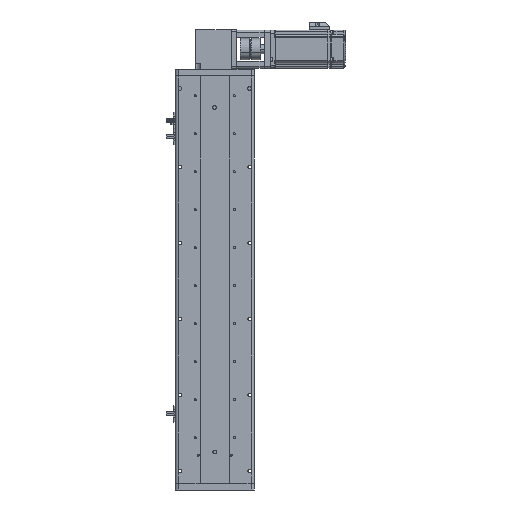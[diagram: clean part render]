
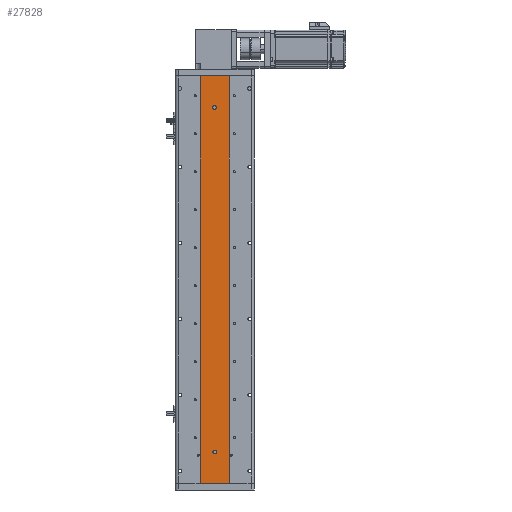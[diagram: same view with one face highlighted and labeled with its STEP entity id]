
A CAD part, front view. The second image highlights one B-rep face of the part: STEP entity #27828.
In plain terms, the highlighted planar face has unit normal (0, -1, 0).
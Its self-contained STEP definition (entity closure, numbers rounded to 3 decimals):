
#2139 = AXIS2_PLACEMENT_3D ( 'NONE', #26532, #40454, #12815 ) ;
#2588 = VERTEX_POINT ( 'NONE', #13676 ) ;
#2621 = ORIENTED_EDGE ( 'NONE', *, *, #57643, .F. ) ;
#4498 = CARTESIAN_POINT ( 'NONE',  ( 0., 1., 272. ) ) ;
#6329 = LINE ( 'NONE', #19925, #53901 ) ;
#6633 = LINE ( 'NONE', #44441, #29612 ) ;
#7964 = FACE_BOUND ( 'NONE', #14329, .T. ) ;
#7993 = ORIENTED_EDGE ( 'NONE', *, *, #21431, .T. ) ;
#8242 = VERTEX_POINT ( 'NONE', #35230 ) ;
#9047 = DIRECTION ( 'NONE',  ( 0., 0., -1. ) ) ;
#11163 = DIRECTION ( 'NONE',  ( 0., -1., 0. ) ) ;
#11499 = CARTESIAN_POINT ( 'NONE',  ( 0., 1., 275. ) ) ;
#12712 = CARTESIAN_POINT ( 'NONE',  ( 0., 1., -272. ) ) ;
#12815 = DIRECTION ( 'NONE',  ( 0., 0., 1. ) ) ;
#13676 = CARTESIAN_POINT ( 'NONE',  ( -23., 1., -322. ) ) ;
#13894 = EDGE_CURVE ( 'NONE', #8242, #50599, #52273, .T. ) ;
#14329 = EDGE_LOOP ( 'NONE', ( #2621, #29481 ) ) ;
#16794 = AXIS2_PLACEMENT_3D ( 'NONE', #4498, #36638, #9047 ) ;
#17387 = DIRECTION ( 'NONE',  ( 0., 0., -1. ) ) ;
#17488 = ORIENTED_EDGE ( 'NONE', *, *, #54827, .F. ) ;
#19747 = CARTESIAN_POINT ( 'NONE',  ( 23., 1., -322. ) ) ;
#19925 = CARTESIAN_POINT ( 'NONE',  ( 23., 1., -322. ) ) ;
#19945 = EDGE_CURVE ( 'NONE', #31405, #33450, #6633, .T. ) ;
#20159 = FACE_BOUND ( 'NONE', #24973, .T. ) ;
#20390 = AXIS2_PLACEMENT_3D ( 'NONE', #23061, #55292, #27652 ) ;
#21187 = LINE ( 'NONE', #40424, #56523 ) ;
#21431 = EDGE_CURVE ( 'NONE', #2588, #33450, #6329, .T. ) ;
#21672 = DIRECTION ( 'NONE',  ( 0., 0., -1. ) ) ;
#21900 = PLANE ( 'NONE',  #2139 ) ;
#23061 = CARTESIAN_POINT ( 'NONE',  ( 0., 1., -272. ) ) ;
#23723 = AXIS2_PLACEMENT_3D ( 'NONE', #12712, #44963, #17387 ) ;
#24855 = CARTESIAN_POINT ( 'NONE',  ( 0., 1., 269. ) ) ;
#24973 = EDGE_LOOP ( 'NONE', ( #28604, #17488 ) ) ;
#26532 = CARTESIAN_POINT ( 'NONE',  ( 23., 1., 322.001 ) ) ;
#27652 = DIRECTION ( 'NONE',  ( 0., 0., -1. ) ) ;
#27828 = ADVANCED_FACE ( 'NONE', ( #20159, #7964, #56950 ), #21900, .F. ) ;
#28604 = ORIENTED_EDGE ( 'NONE', *, *, #28940, .F. ) ;
#28858 = CIRCLE ( 'NONE', #49281, 3. ) ;
#28940 = EDGE_CURVE ( 'NONE', #44850, #52170, #40933, .T. ) ;
#29481 = ORIENTED_EDGE ( 'NONE', *, *, #13894, .F. ) ;
#29612 = VECTOR ( 'NONE', #21672, 1000. ) ;
#31018 = EDGE_CURVE ( 'NONE', #58509, #2588, #21187, .T. ) ;
#31369 = VECTOR ( 'NONE', #34335, 1000. ) ;
#31405 = VERTEX_POINT ( 'NONE', #40373 ) ;
#33450 = VERTEX_POINT ( 'NONE', #19747 ) ;
#33773 = DIRECTION ( 'NONE',  ( 1., 0., 0. ) ) ;
#34335 = DIRECTION ( 'NONE',  ( 1., 0., 0. ) ) ;
#35230 = CARTESIAN_POINT ( 'NONE',  ( 0., 1., -269. ) ) ;
#35318 = ORIENTED_EDGE ( 'NONE', *, *, #19945, .F. ) ;
#36638 = DIRECTION ( 'NONE',  ( 0., -1., 0. ) ) ;
#38771 = CARTESIAN_POINT ( 'NONE',  ( 0., 1., 272. ) ) ;
#38999 = CARTESIAN_POINT ( 'NONE',  ( 23., 1., 322. ) ) ;
#39395 = ORIENTED_EDGE ( 'NONE', *, *, #58499, .F. ) ;
#40373 = CARTESIAN_POINT ( 'NONE',  ( 23., 1., 322. ) ) ;
#40424 = CARTESIAN_POINT ( 'NONE',  ( -23., 1., 322.001 ) ) ;
#40454 = DIRECTION ( 'NONE',  ( 0., 1., 0. ) ) ;
#40933 = CIRCLE ( 'NONE', #16794, 3. ) ;
#41697 = CIRCLE ( 'NONE', #23723, 3. ) ;
#43422 = DIRECTION ( 'NONE',  ( 0., 0., -1. ) ) ;
#43858 = CARTESIAN_POINT ( 'NONE',  ( -23., 1., 322. ) ) ;
#44441 = CARTESIAN_POINT ( 'NONE',  ( 23., 1., 322.001 ) ) ;
#44850 = VERTEX_POINT ( 'NONE', #24855 ) ;
#44963 = DIRECTION ( 'NONE',  ( 0., -1., 0. ) ) ;
#46436 = EDGE_LOOP ( 'NONE', ( #47446, #7993, #35318, #39395 ) ) ;
#47446 = ORIENTED_EDGE ( 'NONE', *, *, #31018, .T. ) ;
#49276 = CARTESIAN_POINT ( 'NONE',  ( 0., 1., -275. ) ) ;
#49281 = AXIS2_PLACEMENT_3D ( 'NONE', #38771, #11163, #43422 ) ;
#50599 = VERTEX_POINT ( 'NONE', #49276 ) ;
#52170 = VERTEX_POINT ( 'NONE', #11499 ) ;
#52273 = CIRCLE ( 'NONE', #20390, 3. ) ;
#53901 = VECTOR ( 'NONE', #33773, 1000. ) ;
#54827 = EDGE_CURVE ( 'NONE', #52170, #44850, #28858, .T. ) ;
#54911 = DIRECTION ( 'NONE',  ( 0., 0., -1. ) ) ;
#55292 = DIRECTION ( 'NONE',  ( 0., -1., 0. ) ) ;
#55919 = LINE ( 'NONE', #38999, #31369 ) ;
#56523 = VECTOR ( 'NONE', #54911, 1000. ) ;
#56950 = FACE_OUTER_BOUND ( 'NONE', #46436, .T. ) ;
#57643 = EDGE_CURVE ( 'NONE', #50599, #8242, #41697, .T. ) ;
#58499 = EDGE_CURVE ( 'NONE', #58509, #31405, #55919, .T. ) ;
#58509 = VERTEX_POINT ( 'NONE', #43858 ) ;
